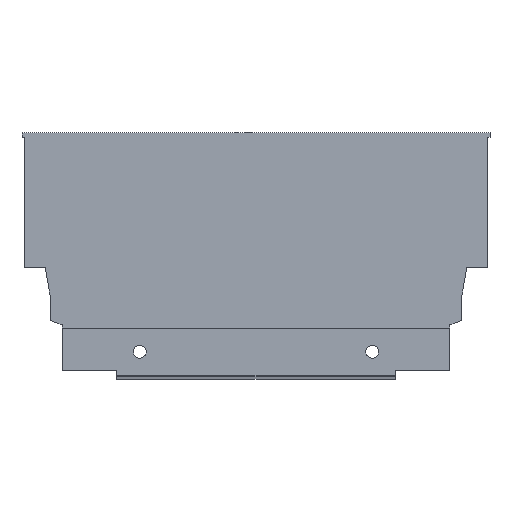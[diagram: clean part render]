
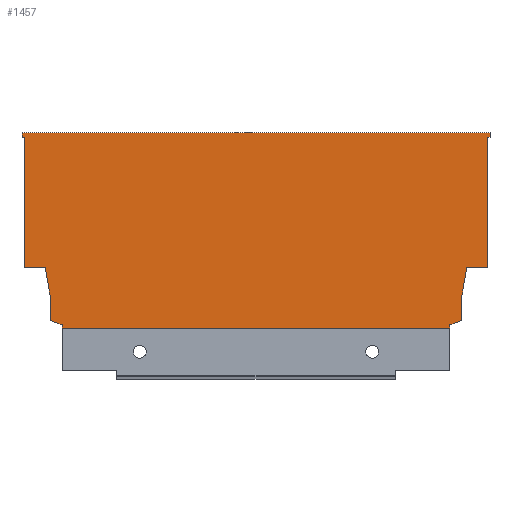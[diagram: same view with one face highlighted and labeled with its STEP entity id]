
A CAD part, top view. The second image highlights one B-rep face of the part: STEP entity #1457.
In plain terms, the highlighted planar face has unit normal (0, 0, 1).
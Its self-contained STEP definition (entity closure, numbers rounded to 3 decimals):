
#175 = LINE ( 'NONE', #1046, #176 ) ;
#176 = VECTOR ( 'NONE', #1047, 1000. ) ;
#229 = FACE_OUTER_BOUND ( 'NONE', #503, .T. ) ;
#256 = LINE ( 'NONE', #1391, #312 ) ;
#277 = LINE ( 'NONE', #1374, #294 ) ;
#281 = LINE ( 'NONE', #1409, #322 ) ;
#286 = LINE ( 'NONE', #1383, #287 ) ;
#287 = VECTOR ( 'NONE', #1384, 1000. ) ;
#290 = LINE ( 'NONE', #1387, #291 ) ;
#291 = VECTOR ( 'NONE', #1388, 1000. ) ;
#294 = VECTOR ( 'NONE', #1392, 1000. ) ;
#295 = VECTOR ( 'NONE', #1430, 1000. ) ;
#298 = LINE ( 'NONE', #1395, #299 ) ;
#299 = VECTOR ( 'NONE', #1396, 1000. ) ;
#302 = LINE ( 'NONE', #1399, #303 ) ;
#303 = VECTOR ( 'NONE', #1400, 1000. ) ;
#304 = LINE ( 'NONE', #1401, #305 ) ;
#305 = VECTOR ( 'NONE', #1402, 1000. ) ;
#306 = LINE ( 'NONE', #1403, #307 ) ;
#307 = VECTOR ( 'NONE', #1404, 1000. ) ;
#308 = LINE ( 'NONE', #1405, #309 ) ;
#309 = VECTOR ( 'NONE', #1406, 1000. ) ;
#310 = LINE ( 'NONE', #1407, #311 ) ;
#311 = VECTOR ( 'NONE', #1408, 1000. ) ;
#312 = VECTOR ( 'NONE', #1410, 1000. ) ;
#313 = LINE ( 'NONE', #1429, #295 ) ;
#314 = LINE ( 'NONE', #1411, #315 ) ;
#315 = VECTOR ( 'NONE', #1412, 1000. ) ;
#316 = LINE ( 'NONE', #1413, #317 ) ;
#317 = VECTOR ( 'NONE', #1414, 1000. ) ;
#320 = LINE ( 'NONE', #1418, #321 ) ;
#321 = VECTOR ( 'NONE', #1419, 1000. ) ;
#322 = VECTOR ( 'NONE', #1421, 1000. ) ;
#323 = LINE ( 'NONE', #1422, #324 ) ;
#324 = VECTOR ( 'NONE', #1423, 1000. ) ;
#325 = LINE ( 'NONE', #1424, #475 ) ;
#440 = ORIENTED_EDGE ( 'NONE', *, *, #1514, .F. ) ;
#441 = ORIENTED_EDGE ( 'NONE', *, *, #1518, .F. ) ;
#443 = ORIENTED_EDGE ( 'NONE', *, *, #1505, .F. ) ;
#444 = ORIENTED_EDGE ( 'NONE', *, *, #1525, .T. ) ;
#445 = ORIENTED_EDGE ( 'NONE', *, *, #1521, .T. ) ;
#451 = ORIENTED_EDGE ( 'NONE', *, *, #1522, .F. ) ;
#452 = ORIENTED_EDGE ( 'NONE', *, *, #1513, .F. ) ;
#453 = ORIENTED_EDGE ( 'NONE', *, *, #1515, .T. ) ;
#463 = ORIENTED_EDGE ( 'NONE', *, *, #1511, .F. ) ;
#470 = ORIENTED_EDGE ( 'NONE', *, *, #1523, .F. ) ;
#475 = VECTOR ( 'NONE', #1425, 1000. ) ;
#476 = ORIENTED_EDGE ( 'NONE', *, *, #1517, .F. ) ;
#502 = ORIENTED_EDGE ( 'NONE', *, *, #1509, .F. ) ;
#503 = EDGE_LOOP ( 'NONE', ( #619, #476, #445, #453, #470, #451, #441, #452, #527, #444, #440, #609, #463, #502, #630, #564, #443, #530 ) ) ;
#527 = ORIENTED_EDGE ( 'NONE', *, *, #1516, .F. ) ;
#530 = ORIENTED_EDGE ( 'NONE', *, *, #1503, .F. ) ;
#564 = ORIENTED_EDGE ( 'NONE', *, *, #753, .F. ) ;
#609 = ORIENTED_EDGE ( 'NONE', *, *, #1512, .F. ) ;
#619 = ORIENTED_EDGE ( 'NONE', *, *, #1520, .F. ) ;
#630 = ORIENTED_EDGE ( 'NONE', *, *, #1507, .F. ) ;
#753 = EDGE_CURVE ( 'NONE', #790, #784, #175, .T. ) ;
#780 = VERTEX_POINT ( 'NONE', #1077 ) ;
#781 = VERTEX_POINT ( 'NONE', #1097 ) ;
#784 = VERTEX_POINT ( 'NONE', #1099 ) ;
#785 = VERTEX_POINT ( 'NONE', #1100 ) ;
#786 = VERTEX_POINT ( 'NONE', #1068 ) ;
#790 = VERTEX_POINT ( 'NONE', #1104 ) ;
#795 = VERTEX_POINT ( 'NONE', #1109 ) ;
#797 = VERTEX_POINT ( 'NONE', #1111 ) ;
#798 = VERTEX_POINT ( 'NONE', #1112 ) ;
#800 = VERTEX_POINT ( 'NONE', #1114 ) ;
#801 = VERTEX_POINT ( 'NONE', #1115 ) ;
#804 = VERTEX_POINT ( 'NONE', #1118 ) ;
#809 = VERTEX_POINT ( 'NONE', #1123 ) ;
#813 = VERTEX_POINT ( 'NONE', #1127 ) ;
#822 = VERTEX_POINT ( 'NONE', #1136 ) ;
#843 = VERTEX_POINT ( 'NONE', #1157 ) ;
#851 = VERTEX_POINT ( 'NONE', #1165 ) ;
#853 = VERTEX_POINT ( 'NONE', #1167 ) ;
#1046 = CARTESIAN_POINT ( 'NONE',  ( 0., 0., 7.5 ) ) ;
#1047 = DIRECTION ( 'NONE',  ( 0., -1., 0. ) ) ;
#1068 = CARTESIAN_POINT ( 'NONE',  ( -152.1, 2.64, 7.5 ) ) ;
#1077 = CARTESIAN_POINT ( 'NONE',  ( -161., 21.2, 7.5 ) ) ;
#1097 = CARTESIAN_POINT ( 'NONE',  ( -8.9, 10.765, 7.5 ) ) ;
#1099 = CARTESIAN_POINT ( 'NONE',  ( 0., 21.2, 7.5 ) ) ;
#1100 = CARTESIAN_POINT ( 'NONE',  ( -147.996, 1.146, 7.5 ) ) ;
#1104 = CARTESIAN_POINT ( 'NONE',  ( 0., 66.5, 7.5 ) ) ;
#1109 = CARTESIAN_POINT ( 'NONE',  ( -147.996, 0., 7.5 ) ) ;
#1111 = CARTESIAN_POINT ( 'NONE',  ( -153.94, 21.2, 7.5 ) ) ;
#1112 = CARTESIAN_POINT ( 'NONE',  ( -13.004, 1.146, 7.5 ) ) ;
#1114 = CARTESIAN_POINT ( 'NONE',  ( -8.9, 2.64, 7.5 ) ) ;
#1115 = CARTESIAN_POINT ( 'NONE',  ( -152.1, 10.765, 7.5 ) ) ;
#1118 = CARTESIAN_POINT ( 'NONE',  ( 1., 68., 7.5 ) ) ;
#1123 = CARTESIAN_POINT ( 'NONE',  ( -162., 68., 7.5 ) ) ;
#1127 = CARTESIAN_POINT ( 'NONE',  ( -13.004, 0., 7.5 ) ) ;
#1136 = CARTESIAN_POINT ( 'NONE',  ( 1., 66.5, 7.5 ) ) ;
#1157 = CARTESIAN_POINT ( 'NONE',  ( -162., 66.5, 7.5 ) ) ;
#1165 = CARTESIAN_POINT ( 'NONE',  ( -7.06, 21.2, 7.5 ) ) ;
#1167 = CARTESIAN_POINT ( 'NONE',  ( -161., 66.5, 7.5 ) ) ;
#1204 = PLANE ( 'NONE',  #1542 ) ;
#1207 = CARTESIAN_POINT ( 'NONE',  ( -161., 0., 7.5 ) ) ;
#1213 = DIRECTION ( 'NONE',  ( 0., 0., 1. ) ) ;
#1214 = DIRECTION ( 'NONE',  ( 1., 0., 0. ) ) ;
#1374 = CARTESIAN_POINT ( 'NONE',  ( 0., 21.2, 7.5 ) ) ;
#1383 = CARTESIAN_POINT ( 'NONE',  ( 1., 68., 7.5 ) ) ;
#1384 = DIRECTION ( 'NONE',  ( 0., -1., 0. ) ) ;
#1387 = CARTESIAN_POINT ( 'NONE',  ( 1., 66.5, 7.5 ) ) ;
#1388 = DIRECTION ( 'NONE',  ( -1., 0., 0. ) ) ;
#1391 = CARTESIAN_POINT ( 'NONE',  ( -147.996, 1.146, 7.5 ) ) ;
#1392 = DIRECTION ( 'NONE',  ( -1., 0., 0. ) ) ;
#1395 = CARTESIAN_POINT ( 'NONE',  ( -7.06, 21.2, 7.5 ) ) ;
#1396 = DIRECTION ( 'NONE',  ( -0.174, -0.985, 0. ) ) ;
#1399 = CARTESIAN_POINT ( 'NONE',  ( -8.9, 10.765, 7.5 ) ) ;
#1400 = DIRECTION ( 'NONE',  ( 0., -1., 0. ) ) ;
#1401 = CARTESIAN_POINT ( 'NONE',  ( -8.9, 2.64, 7.5 ) ) ;
#1402 = DIRECTION ( 'NONE',  ( -0.94, -0.342, 0. ) ) ;
#1403 = CARTESIAN_POINT ( 'NONE',  ( -152.1, 2.64, 7.5 ) ) ;
#1404 = DIRECTION ( 'NONE',  ( -0.94, 0.342, 0. ) ) ;
#1405 = CARTESIAN_POINT ( 'NONE',  ( -13.004, 1.146, 7.5 ) ) ;
#1406 = DIRECTION ( 'NONE',  ( 0., -1., 0. ) ) ;
#1407 = CARTESIAN_POINT ( 'NONE',  ( -161., 0., 7.5 ) ) ;
#1408 = DIRECTION ( 'NONE',  ( 0., -1., 0. ) ) ;
#1409 = CARTESIAN_POINT ( 'NONE',  ( -162., 66.5, 7.5 ) ) ;
#1410 = DIRECTION ( 'NONE',  ( 0., 1., 0. ) ) ;
#1411 = CARTESIAN_POINT ( 'NONE',  ( -162., 66.5, 7.5 ) ) ;
#1412 = DIRECTION ( 'NONE',  ( 0., 1., 0. ) ) ;
#1413 = CARTESIAN_POINT ( 'NONE',  ( -152.1, 10.765, 7.5 ) ) ;
#1414 = DIRECTION ( 'NONE',  ( 0., 1., 0. ) ) ;
#1418 = CARTESIAN_POINT ( 'NONE',  ( -161., 68., 7.5 ) ) ;
#1419 = DIRECTION ( 'NONE',  ( 1., 0., 0. ) ) ;
#1421 = DIRECTION ( 'NONE',  ( 1., 0., 0. ) ) ;
#1422 = CARTESIAN_POINT ( 'NONE',  ( -153.94, 21.2, 7.5 ) ) ;
#1423 = DIRECTION ( 'NONE',  ( -0.174, 0.985, 0. ) ) ;
#1424 = CARTESIAN_POINT ( 'NONE',  ( -166., 21.2, 7.5 ) ) ;
#1425 = DIRECTION ( 'NONE',  ( -1., 0., 0. ) ) ;
#1429 = CARTESIAN_POINT ( 'NONE',  ( -161., 0., 7.5 ) ) ;
#1430 = DIRECTION ( 'NONE',  ( 1., 0., 0. ) ) ;
#1457 = ADVANCED_FACE ( 'NONE', ( #229 ), #1204, .T. ) ;
#1503 = EDGE_CURVE ( 'NONE', #804, #822, #286, .T. ) ;
#1505 = EDGE_CURVE ( 'NONE', #822, #790, #290, .T. ) ;
#1507 = EDGE_CURVE ( 'NONE', #784, #851, #277, .T. ) ;
#1509 = EDGE_CURVE ( 'NONE', #851, #781, #298, .T. ) ;
#1511 = EDGE_CURVE ( 'NONE', #781, #800, #302, .T. ) ;
#1512 = EDGE_CURVE ( 'NONE', #800, #798, #304, .T. ) ;
#1513 = EDGE_CURVE ( 'NONE', #785, #786, #306, .T. ) ;
#1514 = EDGE_CURVE ( 'NONE', #798, #813, #308, .T. ) ;
#1515 = EDGE_CURVE ( 'NONE', #853, #780, #310, .T. ) ;
#1516 = EDGE_CURVE ( 'NONE', #795, #785, #256, .T. ) ;
#1517 = EDGE_CURVE ( 'NONE', #843, #809, #314, .T. ) ;
#1518 = EDGE_CURVE ( 'NONE', #786, #801, #316, .T. ) ;
#1520 = EDGE_CURVE ( 'NONE', #809, #804, #320, .T. ) ;
#1521 = EDGE_CURVE ( 'NONE', #843, #853, #281, .T. ) ;
#1522 = EDGE_CURVE ( 'NONE', #801, #797, #323, .T. ) ;
#1523 = EDGE_CURVE ( 'NONE', #797, #780, #325, .T. ) ;
#1525 = EDGE_CURVE ( 'NONE', #795, #813, #313, .T. ) ;
#1542 = AXIS2_PLACEMENT_3D ( 'NONE', #1207, #1213, #1214 ) ;
